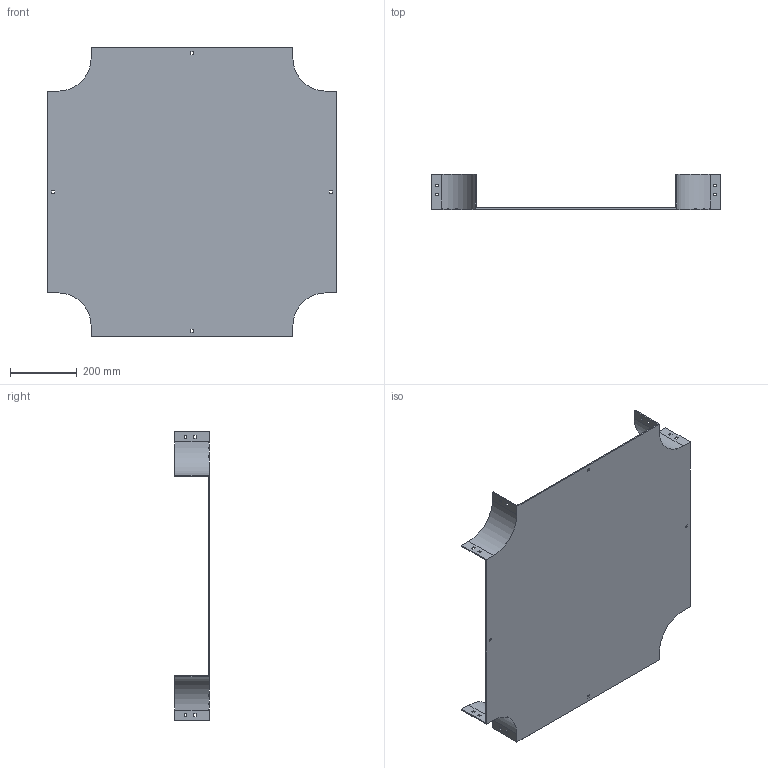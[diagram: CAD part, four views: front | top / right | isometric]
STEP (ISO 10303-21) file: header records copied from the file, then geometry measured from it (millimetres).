
FILE_DESCRIPTION (( 'STEP AP214' ), '1' );
FILE_NAME ('17F1D600.step', '2025-02-21T13:05:25', ( '' ), ( '' ), 'SwSTEP 2.0', 'SolidWorks 2023', '' );
FILE_SCHEMA (( 'AUTOMOTIVE_DESIGN' ));
Length unit declared in the file: millimetre
Products named in the file (1): 17F1D600
Bounding box: 864 x 104 x 864 mm (x, y, z)
Volume: 2710740 mm3; surface area: 1565641.4 mm2
Topology: 1 solids, 1 shells, 114 faces, 336 edges, 224 vertices
Faces by surface type: plane 106, cylinder 8
Entity records: 3839 total; most frequent: CARTESIAN_POINT 675, ORIENTED_EDGE 672, DIRECTION 582, EDGE_CURVE 336, VECTOR 320, LINE 320, VERTEX_POINT 224, EDGE_LOOP 154
